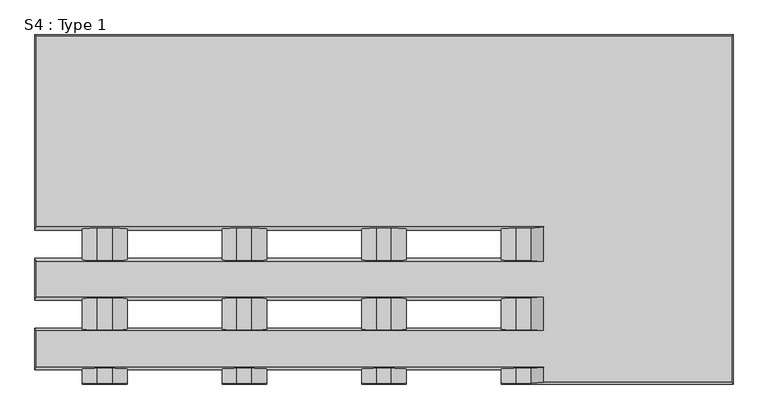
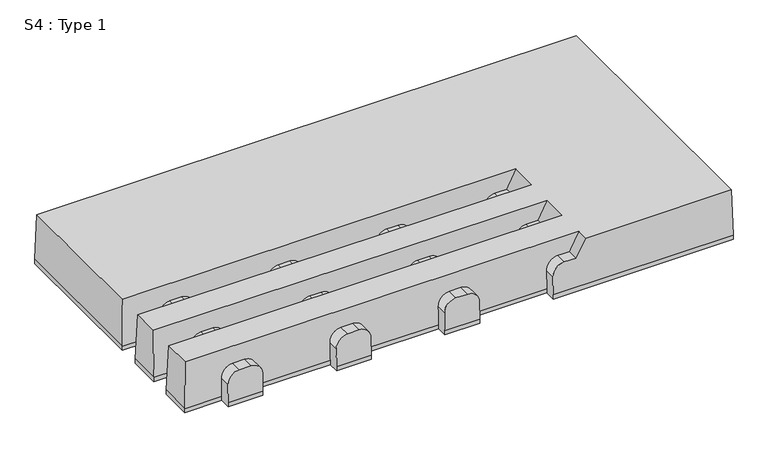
"""IFC4 building model written with IfcOpenShell, lengths in millimetres: proxy geometry, S4 : Type 1."""

from ifc_helpers import new_model, si_unit, frame, origin, place, context, project, spatial, ellipse_curve, source, transform, mapped, element, save
from ifc_brep_helpers import plane_surface, cylinder_surface, advanced_brep


def s4_type_1_be93ef24(model_context):
    return source(origin(), model_context, "Body", "AdvancedBrep", [
        advanced_brep(
        [(85.0, 0.0, 0.0), (165.0, 0.0, 0.0), (165.0, 0.0, 10.0), (85.0, 0.0, 10.0), (1250.0, 625.0, 0.0), (0.0, 625.0, 0.0), (0.0, 625.0, 10.0), (1250.0, 625.0, 10.0), (165.0, 25.25, 0.0), (165.0, 25.25, 10.0), (165.0, 27.1056048, 53.33), (165.0, 1.08325, 53.33), (165.0, 99.75, 10.0), (165.0, 99.75, 0.0), (165.0, 150.25, 0.0), (165.0, 150.25, 10.0), (165.0, 152.6134545, 53.33), (165.0, 97.8943952, 53.33), (165.0, 224.75, 10.0), (165.0, 224.75, 0.0), (165.0, 275.25, 0.0), (165.0, 275.25, 10.0), (165.0, 277.6134545, 53.33), (165.0, 222.3865455, 53.33), (111.67, 96.7522539, 80.0), (138.33, 96.7522539, 80.0), (138.33, 154.0681818, 80.0), (111.67, 154.0681818, 80.0), (138.33, 28.2477461, 80.0), (111.67, 28.2477461, 80.0), (111.67, 1.75, 80.0), (138.33, 1.75, 80.0), (111.67, 220.9318182, 80.0), (138.33, 220.9318182, 80.0), (138.33, 279.0681818, 80.0), (111.67, 279.0681818, 80.0), (85.0, 25.25, 0.0), (85.0, 1.08325, 53.33), (85.0, 27.1056048, 53.33), (85.0, 25.25, 10.0), (85.0, 99.75, 0.0), (85.0, 99.75, 10.0), (85.0, 97.8943952, 53.33), (85.0, 152.6134545, 53.33), (85.0, 150.25, 10.0), (85.0, 150.25, 0.0), (85.0, 224.75, 0.0), (85.0, 224.75, 10.0), (85.0, 222.3865455, 53.33), (85.0, 277.6134545, 53.33), (85.0, 275.25, 10.0), (85.0, 275.25, 0.0), (0.0, 25.25, 0.0), (0.0, 99.75, 0.0), (0.0, 150.25, 0.0), (0.0, 224.75, 0.0), (0.0, 275.25, 0.0), (1250.0, 0.0, 0.0), (835.0, 0.0, 0.0), (835.0, 25.25, 0.0), (665.0, 25.25, 0.0), (665.0, 0.0, 0.0), (585.0, 0.0, 0.0), (585.0, 25.25, 0.0), (415.0, 25.25, 0.0), (415.0, 0.0, 0.0), (335.0, 0.0, 0.0), (335.0, 25.25, 0.0), (335.0, 99.75, 0.0), (335.0, 150.25, 0.0), (335.0, 224.75, 0.0), (335.0, 275.25, 0.0), (415.0, 150.25, 0.0), (415.0, 99.75, 0.0), (585.0, 99.75, 0.0), (585.0, 150.25, 0.0), (415.0, 275.25, 0.0), (415.0, 224.75, 0.0), (585.0, 224.75, 0.0), (585.0, 275.25, 0.0), (665.0, 150.25, 0.0), (665.0, 99.75, 0.0), (835.0, 99.75, 0.0), (835.0, 150.25, 0.0), (665.0, 275.25, 0.0), (665.0, 224.75, 0.0), (835.0, 224.75, 0.0), (835.0, 275.25, 0.0), (1250.0, 0.0, 10.0), (0.0, 25.25, 10.0), (0.0, 99.75, 10.0), (335.0, 99.75, 10.0), (415.0, 99.75, 10.0), (585.0, 99.75, 10.0), (665.0, 99.75, 10.0), (835.0, 99.75, 10.0), (2.75, 95.0392562, 120.0), (911.2, 95.0392562, 120.0), (888.33, 96.7522539, 80.0), (861.67, 96.7522539, 80.0), (835.0, 97.8943952, 53.33), (665.0, 97.8943952, 53.33), (638.33, 96.7522539, 80.0), (611.67, 96.7522539, 80.0), (585.0, 97.8943952, 53.33), (415.0, 97.8943952, 53.33), (388.33, 96.7522539, 80.0), (361.67, 96.7522539, 80.0), (335.0, 97.8943952, 53.33), (911.2, 281.25, 120.0), (911.2, 218.75, 120.0), (2.75, 218.75, 120.0), (2.75, 156.25, 120.0), (911.2, 156.25, 120.0), (2.75, 29.9607438, 120.0), (911.2, 29.9607438, 120.0), (911.2, 2.75, 120.0), (1247.25, 2.75, 120.0), (1247.25, 622.25, 120.0), (2.75, 622.25, 120.0), (2.75, 281.25, 120.0), (335.0, 25.25, 10.0), (335.0, 27.1056048, 53.33), (361.67, 28.2477461, 80.0), (388.33, 28.2477461, 80.0), (415.0, 27.1056048, 53.33), (415.0, 25.25, 10.0), (585.0, 25.25, 10.0), (585.0, 27.1056048, 53.33), (611.67, 28.2477461, 80.0), (638.33, 28.2477461, 80.0), (665.0, 27.1056048, 53.33), (665.0, 25.25, 10.0), (835.0, 25.25, 10.0), (835.0, 27.1056048, 53.33), (861.67, 28.2477461, 80.0), (888.33, 28.2477461, 80.0), (0.0, 150.25, 10.0), (0.0, 224.75, 10.0), (335.0, 224.75, 10.0), (415.0, 224.75, 10.0), (585.0, 224.75, 10.0), (665.0, 224.75, 10.0), (835.0, 224.75, 10.0), (888.33, 220.9318182, 80.0), (861.67, 220.9318182, 80.0), (835.0, 222.3865455, 53.33), (665.0, 222.3865455, 53.33), (638.33, 220.9318182, 80.0), (611.67, 220.9318182, 80.0), (585.0, 222.3865455, 53.33), (415.0, 222.3865455, 53.33), (388.33, 220.9318182, 80.0), (361.67, 220.9318182, 80.0), (335.0, 222.3865455, 53.33), (335.0, 150.25, 10.0), (335.0, 152.6134545, 53.33), (361.67, 154.0681818, 80.0), (388.33, 154.0681818, 80.0), (415.0, 152.6134545, 53.33), (415.0, 150.25, 10.0), (585.0, 150.25, 10.0), (585.0, 152.6134545, 53.33), (611.67, 154.0681818, 80.0), (638.33, 154.0681818, 80.0), (665.0, 152.6134545, 53.33), (665.0, 150.25, 10.0), (835.0, 150.25, 10.0), (835.0, 152.6134545, 53.33), (861.67, 154.0681818, 80.0), (888.33, 154.0681818, 80.0), (0.0, 275.25, 10.0), (335.0, 275.25, 10.0), (335.0, 277.6134545, 53.33), (361.67, 279.0681818, 80.0), (388.33, 279.0681818, 80.0), (415.0, 277.6134545, 53.33), (415.0, 275.25, 10.0), (585.0, 275.25, 10.0), (585.0, 277.6134545, 53.33), (611.67, 279.0681818, 80.0), (638.33, 279.0681818, 80.0), (665.0, 277.6134545, 53.33), (665.0, 275.25, 10.0), (835.0, 275.25, 10.0), (835.0, 277.6134545, 53.33), (861.67, 279.0681818, 80.0), (888.33, 279.0681818, 80.0), (415.0, 0.0, 10.0), (335.0, 0.0, 10.0), (665.0, 0.0, 10.0), (585.0, 0.0, 10.0), (835.0, 0.0, 10.0), (415.0, 1.08325, 53.33), (388.33, 1.75, 80.0), (361.67, 1.75, 80.0), (335.0, 1.08325, 53.33), (665.0, 1.08325, 53.33), (638.33, 1.75, 80.0), (611.67, 1.75, 80.0), (585.0, 1.08325, 53.33), (861.67, 1.75, 80.0), (888.33, 1.75, 80.0), (835.0, 1.08325, 53.33)],
        [
            (0, 1),
            (1, 2),
            (2, 3),
            (3, 0),
            (4, 5),
            (5, 6),
            (6, 7),
            (7, 4),
            (1, 8),
            (8, 9),
            (9, 10),
            (10, 11),
            (11, 2),
            (12, 13),
            (13, 14),
            (14, 15),
            (15, 16),
            (16, 17),
            (17, 12),
            (18, 19),
            (19, 20),
            (20, 21),
            (21, 22),
            (22, 23),
            (23, 18),
            (24, 25),
            (25, 26),
            (26, 27),
            (27, 24),
            (28, 29),
            (29, 30),
            (30, 31),
            (31, 28),
            (32, 33),
            (33, 34),
            (34, 35),
            (35, 32),
            (36, 0),
            (3, 37),
            (37, 38),
            (38, 39),
            (39, 36),
            (40, 41),
            (41, 42),
            (42, 43),
            (43, 44),
            (44, 45),
            (45, 40),
            (46, 47),
            (47, 48),
            (48, 49),
            (49, 50),
            (50, 51),
            (51, 46),
            (36, 52),
            (52, 53),
            (53, 40),
            (45, 54),
            (54, 55),
            (55, 46),
            (51, 56),
            (56, 5),
            (4, 57),
            (57, 58),
            (58, 59),
            (59, 60),
            (60, 61),
            (61, 62),
            (62, 63),
            (63, 64),
            (64, 65),
            (65, 66),
            (66, 67),
            (67, 8),
            (13, 68),
            (68, 69),
            (69, 14),
            (19, 70),
            (70, 71),
            (71, 20),
            (72, 73),
            (73, 74),
            (74, 75),
            (75, 72),
            (76, 77),
            (77, 78),
            (78, 79),
            (79, 76),
            (80, 81),
            (81, 82),
            (82, 83),
            (83, 80),
            (84, 85),
            (85, 86),
            (86, 87),
            (87, 84),
            (7, 88),
            (88, 57),
            (52, 89),
            (89, 90),
            (90, 53),
            (12, 91),
            (91, 68),
            (90, 41),
            (73, 92),
            (92, 93),
            (93, 74),
            (81, 94),
            (94, 95),
            (95, 82),
            (90, 96),
            (96, 97),
            (97, 98),
            (98, 99),
            (99, 100, ellipse_curve(frame((861.67, 97.8943952, 53.33), z_axis=(0.0, -0.9990842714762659, -0.042785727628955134), x_axis=(0.0, -0.04278572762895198, 0.999084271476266)), 26.6944449, 26.67)),
            (100, 95),
            (94, 101),
            (101, 102, ellipse_curve(frame((638.33, 97.8943952, 53.33), z_axis=(0.0, -0.9990842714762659, -0.042785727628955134), x_axis=(0.0, -0.04278572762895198, 0.999084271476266)), 26.6944449, 26.67)),
            (102, 103),
            (103, 104, ellipse_curve(frame((611.67, 97.8943952, 53.33), z_axis=(0.0, -0.9990842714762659, -0.042785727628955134), x_axis=(0.0, -0.04278572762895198, 0.999084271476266)), 26.6944449, 26.67)),
            (104, 93),
            (92, 105),
            (105, 106, ellipse_curve(frame((388.33, 97.8943952, 53.33), z_axis=(0.0, -0.9990842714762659, -0.042785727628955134), x_axis=(0.0, -0.04278572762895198, 0.999084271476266)), 26.6944449, 26.67)),
            (106, 107),
            (107, 108, ellipse_curve(frame((361.67, 97.8943952, 53.33), z_axis=(0.0, -0.9990842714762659, -0.042785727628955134), x_axis=(0.0, -0.04278572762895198, 0.999084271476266)), 26.6944449, 26.67)),
            (108, 91),
            (17, 25, ellipse_curve(frame((138.33, 97.8943952, 53.33), z_axis=(0.0, -0.9990842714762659, -0.042785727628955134), x_axis=(0.0, -0.04278572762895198, 0.999084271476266)), 26.6944449, 26.67)),
            (24, 42, ellipse_curve(frame((111.67, 97.8943952, 53.33), z_axis=(0.0, -0.9990842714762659, -0.042785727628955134), x_axis=(0.0, -0.04278572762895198, 0.999084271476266)), 26.6944449, 26.67)),
            (109, 110),
            (110, 111),
            (111, 112),
            (112, 113),
            (113, 97),
            (96, 114),
            (114, 115),
            (115, 116),
            (116, 117),
            (117, 118),
            (118, 119),
            (119, 120),
            (120, 109),
            (89, 39),
            (38, 29, ellipse_curve(frame((111.67, 27.1056048, 53.33), z_axis=(0.0, 0.9990842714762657, -0.042785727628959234), x_axis=(0.0, -0.042785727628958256, -0.9990842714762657)), 26.6944449, 26.67)),
            (28, 10, ellipse_curve(frame((138.33, 27.1056048, 53.33), z_axis=(0.0, 0.9990842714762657, -0.042785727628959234), x_axis=(0.0, -0.042785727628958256, -0.9990842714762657)), 26.6944449, 26.67)),
            (9, 121),
            (121, 122),
            (122, 123, ellipse_curve(frame((361.67, 27.1056048, 53.33), z_axis=(0.0, 0.9990842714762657, -0.042785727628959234), x_axis=(0.0, -0.042785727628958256, -0.9990842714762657)), 26.6944449, 26.67)),
            (123, 124),
            (124, 125, ellipse_curve(frame((388.33, 27.1056048, 53.33), z_axis=(0.0, 0.9990842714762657, -0.042785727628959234), x_axis=(0.0, -0.042785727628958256, -0.9990842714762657)), 26.6944449, 26.67)),
            (125, 126),
            (126, 127),
            (127, 128),
            (128, 129, ellipse_curve(frame((611.67, 27.1056048, 53.33), z_axis=(0.0, 0.9990842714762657, -0.042785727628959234), x_axis=(0.0, -0.042785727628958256, -0.9990842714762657)), 26.6944449, 26.67)),
            (129, 130),
            (130, 131, ellipse_curve(frame((638.33, 27.1056048, 53.33), z_axis=(0.0, 0.9990842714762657, -0.042785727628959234), x_axis=(0.0, -0.042785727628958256, -0.9990842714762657)), 26.6944449, 26.67)),
            (131, 132),
            (132, 133),
            (133, 134),
            (134, 135, ellipse_curve(frame((861.67, 27.1056048, 53.33), z_axis=(0.0, 0.9990842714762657, -0.042785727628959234), x_axis=(0.0, -0.042785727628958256, -0.9990842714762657)), 26.6944449, 26.67)),
            (135, 136),
            (136, 115),
            (114, 89),
            (67, 121),
            (126, 64),
            (63, 127),
            (132, 60),
            (59, 133),
            (54, 137),
            (137, 138),
            (138, 55),
            (18, 139),
            (139, 70),
            (138, 47),
            (77, 140),
            (140, 141),
            (141, 78),
            (85, 142),
            (142, 143),
            (143, 86),
            (138, 111),
            (110, 144),
            (144, 145),
            (145, 146, ellipse_curve(frame((861.67, 222.3865455, 53.33), z_axis=(0.0, -0.9985157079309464, -0.05446449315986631), x_axis=(0.0, -0.05446449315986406, 0.9985157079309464)), 26.7096449, 26.67)),
            (146, 143),
            (142, 147),
            (147, 148, ellipse_curve(frame((638.33, 222.3865455, 53.33), z_axis=(0.0, -0.9985157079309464, -0.05446449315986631), x_axis=(0.0, -0.05446449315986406, 0.9985157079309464)), 26.7096449, 26.67)),
            (148, 149),
            (149, 150, ellipse_curve(frame((611.67, 222.3865455, 53.33), z_axis=(0.0, -0.9985157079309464, -0.05446449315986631), x_axis=(0.0, -0.05446449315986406, 0.9985157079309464)), 26.7096449, 26.67)),
            (150, 141),
            (140, 151),
            (151, 152, ellipse_curve(frame((388.33, 222.3865455, 53.33), z_axis=(0.0, -0.9985157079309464, -0.05446449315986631), x_axis=(0.0, -0.05446449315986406, 0.9985157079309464)), 26.7096449, 26.67)),
            (152, 153),
            (153, 154, ellipse_curve(frame((361.67, 222.3865455, 53.33), z_axis=(0.0, -0.9985157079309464, -0.05446449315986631), x_axis=(0.0, -0.05446449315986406, 0.9985157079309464)), 26.7096449, 26.67)),
            (154, 139),
            (23, 33, ellipse_curve(frame((138.33, 222.3865455, 53.33), z_axis=(0.0, -0.9985157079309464, -0.05446449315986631), x_axis=(0.0, -0.05446449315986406, 0.9985157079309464)), 26.7096449, 26.67)),
            (32, 48, ellipse_curve(frame((111.67, 222.3865455, 53.33), z_axis=(0.0, -0.9985157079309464, -0.05446449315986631), x_axis=(0.0, -0.05446449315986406, 0.9985157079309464)), 26.7096449, 26.67)),
            (137, 44),
            (43, 27, ellipse_curve(frame((111.67, 152.6134545, 53.33), z_axis=(0.0, 0.998515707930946, -0.05446449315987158), x_axis=(0.0, -0.05446449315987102, -0.9985157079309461)), 26.7096449, 26.67)),
            (26, 16, ellipse_curve(frame((138.33, 152.6134545, 53.33), z_axis=(0.0, 0.998515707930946, -0.05446449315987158), x_axis=(0.0, -0.05446449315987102, -0.9985157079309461)), 26.7096449, 26.67)),
            (15, 155),
            (155, 156),
            (156, 157, ellipse_curve(frame((361.67, 152.6134545, 53.33), z_axis=(0.0, 0.998515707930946, -0.05446449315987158), x_axis=(0.0, -0.05446449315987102, -0.9985157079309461)), 26.7096449, 26.67)),
            (157, 158),
            (158, 159, ellipse_curve(frame((388.33, 152.6134545, 53.33), z_axis=(0.0, 0.998515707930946, -0.05446449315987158), x_axis=(0.0, -0.05446449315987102, -0.9985157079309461)), 26.7096449, 26.67)),
            (159, 160),
            (160, 161),
            (161, 162),
            (162, 163, ellipse_curve(frame((611.67, 152.6134545, 53.33), z_axis=(0.0, 0.998515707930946, -0.05446449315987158), x_axis=(0.0, -0.05446449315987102, -0.9985157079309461)), 26.7096449, 26.67)),
            (163, 164),
            (164, 165, ellipse_curve(frame((638.33, 152.6134545, 53.33), z_axis=(0.0, 0.998515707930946, -0.05446449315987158), x_axis=(0.0, -0.05446449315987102, -0.9985157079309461)), 26.7096449, 26.67)),
            (165, 166),
            (166, 167),
            (167, 168),
            (168, 169, ellipse_curve(frame((861.67, 152.6134545, 53.33), z_axis=(0.0, 0.998515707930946, -0.05446449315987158), x_axis=(0.0, -0.05446449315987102, -0.9985157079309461)), 26.7096449, 26.67)),
            (169, 170),
            (170, 113),
            (112, 137),
            (69, 155),
            (160, 72),
            (75, 161),
            (166, 80),
            (83, 167),
            (56, 171),
            (171, 6),
            (171, 50),
            (49, 35, ellipse_curve(frame((111.67, 277.6134545, 53.33), z_axis=(0.0, 0.998515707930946, -0.05446449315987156), x_axis=(0.0, -0.054464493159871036, -0.998515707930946)), 26.7096449, 26.67)),
            (34, 22, ellipse_curve(frame((138.33, 277.6134545, 53.33), z_axis=(0.0, 0.998515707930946, -0.05446449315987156), x_axis=(0.0, -0.054464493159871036, -0.998515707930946)), 26.7096449, 26.67)),
            (21, 172),
            (172, 173),
            (173, 174, ellipse_curve(frame((361.67, 277.6134545, 53.33), z_axis=(0.0, 0.998515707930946, -0.05446449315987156), x_axis=(0.0, -0.054464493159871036, -0.998515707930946)), 26.7096449, 26.67)),
            (174, 175),
            (175, 176, ellipse_curve(frame((388.33, 277.6134545, 53.33), z_axis=(0.0, 0.998515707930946, -0.05446449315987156), x_axis=(0.0, -0.054464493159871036, -0.998515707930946)), 26.7096449, 26.67)),
            (176, 177),
            (177, 178),
            (178, 179),
            (179, 180, ellipse_curve(frame((611.67, 277.6134545, 53.33), z_axis=(0.0, 0.998515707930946, -0.05446449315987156), x_axis=(0.0, -0.054464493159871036, -0.998515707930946)), 26.7096449, 26.67)),
            (180, 181),
            (181, 182, ellipse_curve(frame((638.33, 277.6134545, 53.33), z_axis=(0.0, 0.998515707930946, -0.05446449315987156), x_axis=(0.0, -0.054464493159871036, -0.998515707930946)), 26.7096449, 26.67)),
            (182, 183),
            (183, 184),
            (184, 185),
            (185, 186, ellipse_curve(frame((861.67, 277.6134545, 53.33), z_axis=(0.0, 0.998515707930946, -0.05446449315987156), x_axis=(0.0, -0.054464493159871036, -0.998515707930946)), 26.7096449, 26.67)),
            (186, 187),
            (187, 109),
            (120, 171),
            (71, 172),
            (177, 76),
            (79, 178),
            (183, 84),
            (87, 184),
            (65, 188),
            (188, 189),
            (189, 66),
            (61, 190),
            (190, 191),
            (191, 62),
            (88, 192),
            (192, 58),
            (31, 11, ellipse_curve(frame((138.33, 1.08325, 53.33), z_axis=(0.0, 0.9996876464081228, -0.024992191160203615), x_axis=(0.0, -0.024992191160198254, -0.9996876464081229)), 26.6783331, 26.67)),
            (37, 30, ellipse_curve(frame((111.67, 1.08325, 53.33), z_axis=(0.0, 0.9996876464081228, -0.024992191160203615), x_axis=(0.0, -0.024992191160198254, -0.9996876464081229)), 26.6783331, 26.67)),
            (125, 193),
            (193, 188),
            (159, 105),
            (176, 151),
            (124, 194),
            (194, 193, ellipse_curve(frame((388.33, 1.08325, 53.33), z_axis=(0.0, 0.9996876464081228, -0.024992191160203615), x_axis=(0.0, -0.024992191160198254, -0.9996876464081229)), 26.6783331, 26.67)),
            (158, 106),
            (175, 152),
            (123, 195),
            (195, 194),
            (157, 107),
            (174, 153),
            (122, 196),
            (196, 195, ellipse_curve(frame((361.67, 1.08325, 53.33), z_axis=(0.0, 0.9996876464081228, -0.024992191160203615), x_axis=(0.0, -0.024992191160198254, -0.9996876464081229)), 26.6783331, 26.67)),
            (156, 108),
            (173, 154),
            (189, 196),
            (131, 197),
            (197, 190),
            (165, 101),
            (182, 147),
            (130, 198),
            (198, 197, ellipse_curve(frame((638.33, 1.08325, 53.33), z_axis=(0.0, 0.9996876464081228, -0.024992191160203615), x_axis=(0.0, -0.024992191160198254, -0.9996876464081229)), 26.6783331, 26.67)),
            (164, 102),
            (181, 148),
            (129, 199),
            (199, 198),
            (163, 103),
            (180, 149),
            (128, 200),
            (200, 199, ellipse_curve(frame((611.67, 1.08325, 53.33), z_axis=(0.0, 0.9996876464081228, -0.024992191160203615), x_axis=(0.0, -0.024992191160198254, -0.9996876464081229)), 26.6783331, 26.67)),
            (162, 104),
            (179, 150),
            (191, 200),
            (135, 201),
            (201, 202),
            (202, 136),
            (98, 170),
            (169, 99),
            (144, 187),
            (186, 145),
            (134, 203),
            (203, 201, ellipse_curve(frame((861.67, 1.08325, 53.33), z_axis=(0.0, 0.9996876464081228, -0.024992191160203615), x_axis=(0.0, -0.024992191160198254, -0.9996876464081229)), 26.6783331, 26.67)),
            (168, 100),
            (185, 146),
            (192, 203),
            (202, 116),
            (119, 6),
            (7, 118),
            (117, 88),
        ],
        [
            plane_surface(frame((165.0, 0.0, 0.0), z_axis=(0.0, -1.0, 0.0), x_axis=(0.0, 0.0, 1.0))),
            plane_surface(frame((165.0, 625.0, 0.0), z_axis=(0.0, 1.0, 0.0), x_axis=(0.0, 0.0, -1.0))),
            plane_surface(frame((165.0, 0.0, 0.0), z_axis=(1.0, 0.0, 0.0), x_axis=(0.0, 1.0, 0.0))),
            plane_surface(frame((138.33, 0.0, 80.0), z_axis=(0.0, 0.0, 1.0), x_axis=(0.0, 1.0, 0.0))),
            plane_surface(frame((85.0, 0.0, 53.33), z_axis=(-1.0, 0.0, 0.0), x_axis=(0.0, 1.0, 0.0))),
            plane_surface(frame((85.0, 0.0, 0.0), z_axis=(0.0, 0.0, -1.0), x_axis=(0.0, 1.0, 0.0))),
            plane_surface(frame((1250.0, 99.75, 0.0), z_axis=(1.0, 0.0, 0.0), x_axis=(0.0, 0.0, 1.0))),
            plane_surface(frame((0.0, 99.75, 0.0), z_axis=(-1.0, 0.0, 0.0), x_axis=(0.0, 0.0, -1.0))),
            plane_surface(frame((1250.0, 99.75, 0.0), z_axis=(0.0, 1.0, 0.0), x_axis=(-1.0, 0.0, 0.0))),
            plane_surface(frame((1250.0, 99.75, 10.0), z_axis=(0.0, 0.9990842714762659, 0.042785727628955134), x_axis=(-1.0, 0.0, 0.0))),
            plane_surface(frame((1250.0, 95.0392562, 120.0), z_axis=(0.0, 0.0, 1.0), x_axis=(-1.0, 0.0, 0.0))),
            plane_surface(frame((1250.0, 29.9607438, 120.0), z_axis=(0.0, -0.9990842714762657, 0.042785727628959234), x_axis=(-1.0, 0.0, 0.0))),
            plane_surface(frame((1250.0, 25.25, 10.0), z_axis=(0.0, -1.0, 0.0), x_axis=(-1.0, 0.0, 0.0))),
            plane_surface(frame((0.0, 224.75, 0.0), z_axis=(-1.0, 0.0, 0.0), x_axis=(0.0, 0.0, -1.0))),
            plane_surface(frame((1250.0, 224.75, 0.0), z_axis=(0.0, 1.0, 0.0), x_axis=(-1.0, 0.0, 0.0))),
            plane_surface(frame((1250.0, 224.75, 10.0), z_axis=(0.0, 0.9985157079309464, 0.05446449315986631), x_axis=(-1.0, 0.0, 0.0))),
            plane_surface(frame((1250.0, 156.25, 120.0), z_axis=(0.0, -0.998515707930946, 0.05446449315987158), x_axis=(-1.0, 0.0, 0.0))),
            plane_surface(frame((1250.0, 150.25, 10.0), z_axis=(0.0, -1.0, 0.0), x_axis=(-1.0, 0.0, 0.0))),
            plane_surface(frame((0.0, 625.0, -304.8), z_axis=(-1.0, 0.0, 0.0), x_axis=(0.0, 0.0, -1.0))),
            plane_surface(frame((1250.0, 281.25, 120.0), z_axis=(0.0, -0.998515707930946, 0.05446449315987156), x_axis=(-1.0, 0.0, 0.0))),
            plane_surface(frame((1250.0, 275.25, 10.0), z_axis=(0.0, -1.0, 0.0), x_axis=(-1.0, 0.0, 0.0))),
            plane_surface(frame((415.0, 0.0, 0.0), z_axis=(0.0, -1.0, 0.0), x_axis=(0.0, 0.0, 1.0))),
            plane_surface(frame((665.0, 0.0, 0.0), z_axis=(0.0, -1.0, 0.0), x_axis=(0.0, 0.0, 1.0))),
            plane_surface(frame((1250.0, 0.0, 120.0), z_axis=(0.0, -1.0, 0.0), x_axis=(0.0, 0.0, 1.0))),
            cylinder_surface(frame((138.33, 625.0, 53.33), z_axis=(0.0, -1.0, 0.0), x_axis=(1.0, 0.0, 0.0)), 26.67),
            cylinder_surface(frame((111.67, 625.0, 53.33), z_axis=(0.0, -1.0, 0.0), x_axis=(1.0, 0.0, 0.0)), 26.67),
            plane_surface(frame((415.0, 0.0, 0.0), z_axis=(1.0, 0.0, 0.0), x_axis=(0.0, 1.0, 0.0))),
            cylinder_surface(frame((388.33, 625.0, 53.33), z_axis=(0.0, -1.0, 0.0), x_axis=(1.0, 0.0, 0.0)), 26.67),
            plane_surface(frame((388.33, 0.0, 80.0), z_axis=(0.0, 0.0, 1.0), x_axis=(0.0, 1.0, 0.0))),
            cylinder_surface(frame((361.67, 625.0, 53.33), z_axis=(0.0, -1.0, 0.0), x_axis=(1.0, 0.0, 0.0)), 26.67),
            plane_surface(frame((335.0, 0.0, 53.33), z_axis=(-1.0, 0.0, 0.0), x_axis=(0.0, 1.0, 0.0))),
            plane_surface(frame((665.0, 0.0, 0.0), z_axis=(1.0, 0.0, 0.0), x_axis=(0.0, 1.0, 0.0))),
            cylinder_surface(frame((638.33, 625.0, 53.33), z_axis=(0.0, -1.0, 0.0), x_axis=(1.0, 0.0, 0.0)), 26.67),
            plane_surface(frame((638.33, 0.0, 80.0), z_axis=(0.0, 0.0, 1.0), x_axis=(0.0, 1.0, 0.0))),
            cylinder_surface(frame((611.67, 625.0, 53.33), z_axis=(0.0, -1.0, 0.0), x_axis=(1.0, 0.0, 0.0)), 26.67),
            plane_surface(frame((585.0, 0.0, 53.33), z_axis=(-1.0, 0.0, 0.0), x_axis=(0.0, 1.0, 0.0))),
            plane_surface(frame((888.33, 0.0, 80.0), z_axis=(0.0, 0.0, 1.0), x_axis=(0.0, 1.0, 0.0))),
            cylinder_surface(frame((861.67, 281.25, 53.33), z_axis=(0.0, -1.0, 0.0), x_axis=(1.0, 0.0, 0.0)), 26.67),
            plane_surface(frame((835.0, 0.0, 53.33), z_axis=(-1.0, 0.0, 0.0), x_axis=(0.0, 1.0, 0.0))),
            plane_surface(frame((911.2, 0.0, 120.0), z_axis=(-0.8681229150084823, 0.0, 0.49634927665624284), x_axis=(0.0, 1.0, 0.0))),
            plane_surface(frame((0.0, 0.0, 10.0), z_axis=(-0.9996876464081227, 0.0, 0.024992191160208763), x_axis=(0.0, 1.0, 0.0))),
            plane_surface(frame((1247.25, 0.0, 120.0), z_axis=(0.999687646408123, 0.0, 0.024992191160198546), x_axis=(0.0, 1.0, 0.0))),
            plane_surface(frame((1250.0, 622.25, 120.0), z_axis=(0.0, 0.9996876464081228, 0.024992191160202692), x_axis=(-1.0, 0.0, 0.0))),
            plane_surface(frame((1250.0, 0.0, 10.0), z_axis=(0.0, -0.9996876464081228, 0.024992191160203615), x_axis=(-1.0, 0.0, 0.0))),
        ],
        [
            (0, [[1, 2, 3, 4]]),
            (1, [[5, 6, 7, 8]]),
            (2, [[9, 10, 11, 12, 13, -2]]),
            (2, [[14, 15, 16, 17, 18, 19]]),
            (2, [[20, 21, 22, 23, 24, 25]]),
            (3, [[26, 27, 28, 29]]),
            (3, [[30, 31, 32, 33]]),
            (3, [[34, 35, 36, 37]]),
            (4, [[38, -4, 39, 40, 41, 42]]),
            (4, [[43, 44, 45, 46, 47, 48]]),
            (4, [[49, 50, 51, 52, 53, 54]]),
            (5, [[-1, -38, 55, 56, 57, -48, 58, 59, 60, -54, 61, 62, -5, 63, 64, 65, 66, 67, 68, 69, 70, 71, 72, 73, 74, -9], [-15, 75, 76, 77], [-21, 78, 79, 80], [81, 82, 83, 84], [85, 86, 87, 88], [89, 90, 91, 92], [93, 94, 95, 96]]),
            (6, [[-63, -8, 97, 98]]),
            (7, [[-56, 99, 100, 101]]),
            (8, [[-14, 102, 103, -75]]),
            (8, [[-101, 104, -43, -57]]),
            (8, [[105, 106, 107, -82]]),
            (8, [[108, 109, 110, -90]]),
            (9, [[-104, 111, 112, 113, 114, 115, 116, -109, 117, 118, 119, 120, 121, -106, 122, 123, 124, 125, 126, -102, -19, 127, -26, 128, -44]]),
            (10, [[129, 130, 131, 132, 133, -112, 134, 135, 136, 137, 138, 139, 140, 141]]),
            (11, [[142, -41, 143, -30, 144, -11, 145, 146, 147, 148, 149, 150, 151, 152, 153, 154, 155, 156, 157, 158, 159, 160, 161, -135, 162]]),
            (12, [[-10, -74, 163, -145]]),
            (12, [[-99, -55, -42, -142]]),
            (12, [[164, -70, 165, -151]]),
            (12, [[166, -66, 167, -157]]),
            (13, [[-59, 168, 169, 170]]),
            (14, [[-20, 171, 172, -78]]),
            (14, [[-170, 173, -49, -60]]),
            (14, [[174, 175, 176, -86]]),
            (14, [[177, 178, 179, -94]]),
            (15, [[-173, 180, -130, 181, 182, 183, 184, -178, 185, 186, 187, 188, 189, -175, 190, 191, 192, 193, 194, -171, -25, 195, -34, 196, -50]]),
            (16, [[197, -46, 198, -28, 199, -17, 200, 201, 202, 203, 204, 205, 206, 207, 208, 209, 210, 211, 212, 213, 214, 215, 216, -132, 217]]),
            (17, [[-16, -77, 218, -200]]),
            (17, [[-168, -58, -47, -197]]),
            (17, [[219, -84, 220, -206]]),
            (17, [[221, -92, 222, -212]]),
            (18, [[-62, 223, 224, -6]]),
            (19, [[225, -52, 226, -36, 227, -23, 228, 229, 230, 231, 232, 233, 234, 235, 236, 237, 238, 239, 240, 241, 242, 243, 244, -141, 245]]),
            (20, [[-22, -80, 246, -228]]),
            (20, [[-223, -61, -53, -225]]),
            (20, [[247, -88, 248, -234]]),
            (20, [[249, -96, 250, -240]]),
            (21, [[-72, 251, 252, 253]]),
            (22, [[-68, 254, 255, 256]]),
            (23, [[-64, -98, 257, 258]]),
            (24, [[-127, -18, -199, -27]]),
            (24, [[-144, -33, 259, -12]]),
            (24, [[-195, -24, -227, -35]]),
            (25, [[-128, -29, -198, -45]]),
            (25, [[-143, -40, 260, -31]]),
            (25, [[-196, -37, -226, -51]]),
            (26, [[-71, -164, -150, 261, 262, -251]]),
            (26, [[-81, -219, -205, 263, -122, -105]]),
            (26, [[-85, -247, -233, 264, -190, -174]]),
            (27, [[-149, 265, 266, -261]]),
            (27, [[-263, -204, 267, -123]]),
            (27, [[-264, -232, 268, -191]]),
            (28, [[-148, 269, 270, -265]]),
            (28, [[-267, -203, 271, -124]]),
            (28, [[-268, -231, 272, -192]]),
            (29, [[-147, 273, 274, -269]]),
            (29, [[-271, -202, 275, -125]]),
            (29, [[-272, -230, 276, -193]]),
            (30, [[-73, -253, 277, -273, -146, -163]]),
            (30, [[-76, -103, -126, -275, -201, -218]]),
            (30, [[-79, -172, -194, -276, -229, -246]]),
            (31, [[-67, -166, -156, 278, 279, -254]]),
            (31, [[-89, -221, -211, 280, -117, -108]]),
            (31, [[-93, -249, -239, 281, -185, -177]]),
            (32, [[-155, 282, 283, -278]]),
            (32, [[-280, -210, 284, -118]]),
            (32, [[-281, -238, 285, -186]]),
            (33, [[-154, 286, 287, -282]]),
            (33, [[-284, -209, 288, -119]]),
            (33, [[-285, -237, 289, -187]]),
            (34, [[-153, 290, 291, -286]]),
            (34, [[-288, -208, 292, -120]]),
            (34, [[-289, -236, 293, -188]]),
            (35, [[-69, -256, 294, -290, -152, -165]]),
            (35, [[-83, -107, -121, -292, -207, -220]]),
            (35, [[-87, -176, -189, -293, -235, -248]]),
            (36, [[-160, 295, 296, 297]]),
            (36, [[298, -215, 299, -114]]),
            (36, [[300, -243, 301, -182]]),
            (37, [[-159, 302, 303, -295]]),
            (37, [[-299, -214, 304, -115]]),
            (37, [[-301, -242, 305, -183]]),
            (38, [[-65, -258, 306, -302, -158, -167]]),
            (38, [[-91, -110, -116, -304, -213, -222]]),
            (38, [[-95, -179, -184, -305, -241, -250]]),
            (39, [[-129, -244, -300, -181]]),
            (39, [[-133, -216, -298, -113]]),
            (39, [[-161, -297, 307, -136]]),
            (40, [[-100, -162, -134, -111]]),
            (40, [[-131, -180, -169, -217]]),
            (40, [[-224, -245, -140, 308]]),
            (41, [[-97, 309, -138, 310]]),
            (42, [[-7, -308, -139, -309]]),
            (43, [[-3, -13, -259, -32, -260, -39]]),
            (43, [[-137, -307, -296, -303, -306, -257, -310]]),
            (43, [[-252, -262, -266, -270, -274, -277]]),
            (43, [[-255, -279, -283, -287, -291, -294]]),
        ],
    ),
    ])


if __name__ == "__main__":
    model = new_model("IFC4")
    model_context = context("Model", 3, world=origin())
    ifc_project = project(units=[si_unit("LENGTHUNIT", "METRE", prefix="MILLI")], contexts=[model_context])
    site = spatial("IfcSite", under=ifc_project)
    building = spatial("IfcBuilding", under=site)
    placement = place(None, origin())
    s4_type_1_shape = s4_type_1_be93ef24(model_context)
    element("IfcBuildingElementProxy", 1, Name="S4 : Type 1", ObjectType="S4 : Type 1", at=placement, inside=building, context=model_context, shape_type="MappedRepresentation", body=[
        mapped(s4_type_1_shape, transform((0.0, 0.0, 0.0), x_axis=(1.0, 0.0, 0.0), y_axis=(0.0, 1.0, 0.0), z_axis=(0.0, 0.0, 1.0))),
    ])
    save(model, "model.ifc")
